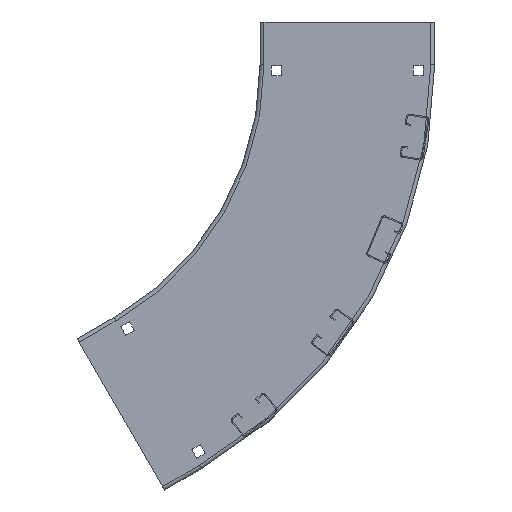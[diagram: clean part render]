
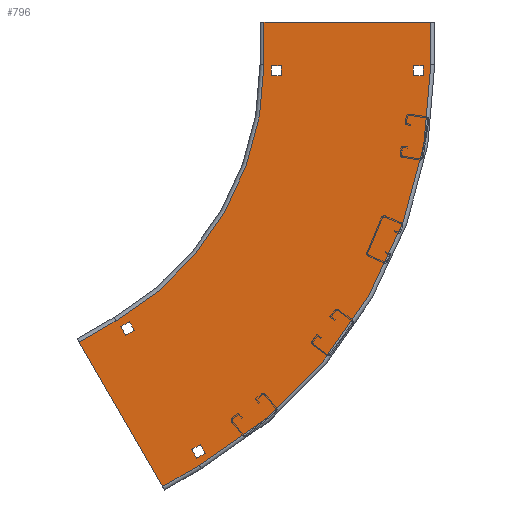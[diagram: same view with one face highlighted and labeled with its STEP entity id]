
A CAD part, left-side view. The second image highlights one B-rep face of the part: STEP entity #796.
In plain terms, the highlighted planar face has unit normal (-1, 0, 0).
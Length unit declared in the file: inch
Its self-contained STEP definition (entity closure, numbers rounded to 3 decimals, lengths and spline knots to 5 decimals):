
#1=DIRECTION('',(0.,-0.5,-0.866));
#2=VECTOR('',#1,6.858);
#3=CARTESIAN_POINT('',(0.,7.99446,17.3468));
#4=LINE('',#3,#2);
#5=DIRECTION('',(0.,1.,0.));
#6=VECTOR('',#5,6.858);
#7=CARTESIAN_POINT('',(0.,12.162,-1.75));
#8=LINE('',#7,#6);
#9=DIRECTION('',(0.,0.,-1.));
#10=VECTOR('',#9,0.41);
#11=CARTESIAN_POINT('',(0.,18.7135,0.455));
#12=LINE('',#11,#10);
#13=DIRECTION('',(0.,-1.,0.));
#14=VECTOR('',#13,0.41);
#15=CARTESIAN_POINT('',(0.,18.7135,0.045));
#16=LINE('',#15,#14);
#17=DIRECTION('',(0.,0.,1.));
#18=VECTOR('',#17,0.41);
#19=CARTESIAN_POINT('',(0.,18.3035,0.045));
#20=LINE('',#19,#18);
#21=DIRECTION('',(0.,1.,0.));
#22=VECTOR('',#21,0.41);
#23=CARTESIAN_POINT('',(0.,18.3035,0.455));
#24=LINE('',#23,#22);
#25=DIRECTION('',(0.,1.,0.));
#26=VECTOR('',#25,0.41);
#27=CARTESIAN_POINT('',(0.,12.4685,0.455));
#28=LINE('',#27,#26);
#29=DIRECTION('',(0.,0.,-1.));
#30=VECTOR('',#29,0.41);
#31=CARTESIAN_POINT('',(0.,12.8785,0.455));
#32=LINE('',#31,#30);
#33=DIRECTION('',(0.,-1.,0.));
#34=VECTOR('',#33,0.41);
#35=CARTESIAN_POINT('',(0.,12.8785,0.045));
#36=LINE('',#35,#34);
#37=DIRECTION('',(0.,0.,1.));
#38=VECTOR('',#37,0.41);
#39=CARTESIAN_POINT('',(0.,12.4685,0.045));
#40=LINE('',#39,#38);
#41=DIRECTION('',(0.,-0.5,-0.866));
#42=VECTOR('',#41,0.41);
#43=CARTESIAN_POINT('',(0.,6.8321,10.92354));
#44=LINE('',#43,#42);
#45=DIRECTION('',(0.,-0.866,0.5));
#46=VECTOR('',#45,0.41);
#47=CARTESIAN_POINT('',(0.,6.6271,10.56847));
#48=LINE('',#47,#46);
#49=DIRECTION('',(0.,0.5,0.866));
#50=VECTOR('',#49,0.41);
#51=CARTESIAN_POINT('',(0.,6.27203,10.77347));
#52=LINE('',#51,#50);
#53=DIRECTION('',(0.,0.866,-0.5));
#54=VECTOR('',#53,0.41);
#55=CARTESIAN_POINT('',(0.,6.47703,11.12854));
#56=LINE('',#55,#54);
#57=DIRECTION('',(0.,0.5,0.866));
#58=VECTOR('',#57,0.41);
#59=CARTESIAN_POINT('',(0.,9.1899,15.82738));
#60=LINE('',#59,#58);
#61=DIRECTION('',(0.,0.866,-0.5));
#62=VECTOR('',#61,0.41);
#63=CARTESIAN_POINT('',(0.,9.3949,16.18245));
#64=LINE('',#63,#62);
#65=DIRECTION('',(0.,-0.5,-0.866));
#66=VECTOR('',#65,0.41);
#67=CARTESIAN_POINT('',(0.,9.74997,15.97745));
#68=LINE('',#67,#66);
#69=DIRECTION('',(0.,-0.866,0.5));
#70=VECTOR('',#69,0.41);
#71=CARTESIAN_POINT('',(0.,9.54497,15.62238));
#72=LINE('',#71,#70);
#73=DIRECTION('',(0.,0.,1.));
#74=VECTOR('',#73,1.75);
#75=CARTESIAN_POINT('',(0.,19.02,-1.75));
#76=LINE('',#75,#74);
#114=DIRECTION('',(0.,0.,-1.));
#115=VECTOR('',#114,1.75);
#116=CARTESIAN_POINT('',(0.,12.162,0.));
#117=LINE('',#116,#115);
#123=CARTESIAN_POINT('',(0.,0.,0.));
#124=DIRECTION('',(-1.,0.,0.));
#125=DIRECTION('',(0.,0.5,0.866));
#126=AXIS2_PLACEMENT_3D('',#123,#124,#125);
#128=DIRECTION('',(0.,0.866,-0.5));
#129=VECTOR('',#128,1.75);
#130=CARTESIAN_POINT('',(0.,4.56546,11.4076));
#131=LINE('',#130,#129);
#169=DIRECTION('',(0.,-0.866,0.5));
#170=VECTOR('',#169,1.75);
#171=CARTESIAN_POINT('',(0.,9.51,16.4718));
#172=LINE('',#171,#170);
#178=CARTESIAN_POINT('',(0.,0.,0.));
#179=DIRECTION('',(1.,0.,0.));
#180=DIRECTION('',(0.,1.,0.));
#181=AXIS2_PLACEMENT_3D('',#178,#179,#180);
#573=CARTESIAN_POINT('',(0.,4.56546,11.4076));
#575=VERTEX_POINT('',#573);
#579=CARTESIAN_POINT('',(0.,6.081,10.5326));
#581=VERTEX_POINT('',#579);
#585=CARTESIAN_POINT('',(0.,12.162,0.));
#587=VERTEX_POINT('',#585);
#591=CARTESIAN_POINT('',(0.,12.162,-1.75));
#593=VERTEX_POINT('',#591);
#621=CARTESIAN_POINT('',(0.,19.02,-1.75));
#622=VERTEX_POINT('',#621);
#623=CARTESIAN_POINT('',(0.,7.99446,17.3468));
#624=VERTEX_POINT('',#623);
#629=CARTESIAN_POINT('',(0.,19.02,0.));
#631=VERTEX_POINT('',#629);
#635=CARTESIAN_POINT('',(0.,9.51,16.4718));
#637=VERTEX_POINT('',#635);
#669=CARTESIAN_POINT('',(0.,18.7135,0.455));
#670=CARTESIAN_POINT('',(0.,18.7135,0.045));
#671=VERTEX_POINT('',#669);
#672=VERTEX_POINT('',#670);
#673=CARTESIAN_POINT('',(0.,18.3035,0.045));
#674=VERTEX_POINT('',#673);
#675=CARTESIAN_POINT('',(0.,18.3035,0.455));
#676=VERTEX_POINT('',#675);
#677=CARTESIAN_POINT('',(0.,12.4685,0.455));
#678=CARTESIAN_POINT('',(0.,12.8785,0.455));
#679=VERTEX_POINT('',#677);
#680=VERTEX_POINT('',#678);
#681=CARTESIAN_POINT('',(0.,12.8785,0.045));
#682=VERTEX_POINT('',#681);
#683=CARTESIAN_POINT('',(0.,12.4685,0.045));
#684=VERTEX_POINT('',#683);
#701=CARTESIAN_POINT('',(0.,6.8321,10.92354));
#702=CARTESIAN_POINT('',(0.,6.6271,10.56847));
#703=VERTEX_POINT('',#701);
#704=VERTEX_POINT('',#702);
#705=CARTESIAN_POINT('',(0.,6.27203,10.77347));
#706=VERTEX_POINT('',#705);
#707=CARTESIAN_POINT('',(0.,6.47703,11.12854));
#708=VERTEX_POINT('',#707);
#709=CARTESIAN_POINT('',(0.,9.1899,15.82738));
#710=CARTESIAN_POINT('',(0.,9.3949,16.18245));
#711=VERTEX_POINT('',#709);
#712=VERTEX_POINT('',#710);
#713=CARTESIAN_POINT('',(0.,9.74997,15.97745));
#714=VERTEX_POINT('',#713);
#715=CARTESIAN_POINT('',(0.,9.54497,15.62238));
#716=VERTEX_POINT('',#715);
#733=CARTESIAN_POINT('',(0.,0.,0.));
#734=DIRECTION('',(1.,0.,0.));
#735=DIRECTION('',(0.,0.,-1.));
#736=AXIS2_PLACEMENT_3D('',#733,#734,#735);
#737=PLANE('',#736);
#739=ORIENTED_EDGE('',*,*,#738,.T.);
#741=ORIENTED_EDGE('',*,*,#740,.T.);
#743=ORIENTED_EDGE('',*,*,#742,.T.);
#745=ORIENTED_EDGE('',*,*,#744,.T.);
#747=ORIENTED_EDGE('',*,*,#746,.T.);
#749=ORIENTED_EDGE('',*,*,#748,.T.);
#751=ORIENTED_EDGE('',*,*,#750,.T.);
#753=ORIENTED_EDGE('',*,*,#752,.T.);
#754=EDGE_LOOP('',(#739,#741,#743,#745,#747,#749,#751,#753));
#755=FACE_OUTER_BOUND('',#754,.F.);
#757=ORIENTED_EDGE('',*,*,#756,.T.);
#759=ORIENTED_EDGE('',*,*,#758,.T.);
#761=ORIENTED_EDGE('',*,*,#760,.T.);
#763=ORIENTED_EDGE('',*,*,#762,.T.);
#764=EDGE_LOOP('',(#757,#759,#761,#763));
#765=FACE_BOUND('',#764,.F.);
#767=ORIENTED_EDGE('',*,*,#766,.T.);
#769=ORIENTED_EDGE('',*,*,#768,.T.);
#771=ORIENTED_EDGE('',*,*,#770,.T.);
#773=ORIENTED_EDGE('',*,*,#772,.T.);
#774=EDGE_LOOP('',(#767,#769,#771,#773));
#775=FACE_BOUND('',#774,.F.);
#777=ORIENTED_EDGE('',*,*,#776,.T.);
#779=ORIENTED_EDGE('',*,*,#778,.T.);
#781=ORIENTED_EDGE('',*,*,#780,.T.);
#783=ORIENTED_EDGE('',*,*,#782,.T.);
#784=EDGE_LOOP('',(#777,#779,#781,#783));
#785=FACE_BOUND('',#784,.F.);
#787=ORIENTED_EDGE('',*,*,#786,.T.);
#789=ORIENTED_EDGE('',*,*,#788,.T.);
#791=ORIENTED_EDGE('',*,*,#790,.T.);
#793=ORIENTED_EDGE('',*,*,#792,.T.);
#794=EDGE_LOOP('',(#787,#789,#791,#793));
#795=FACE_BOUND('',#794,.F.);
#796=ADVANCED_FACE('',(#755,#765,#775,#785,#795),#737,.F.);
#127=CIRCLE('',#126,12.162);
#182=CIRCLE('',#181,19.02);
#738=EDGE_CURVE('',#622,#631,#76,.T.);
#740=EDGE_CURVE('',#631,#637,#182,.T.);
#742=EDGE_CURVE('',#637,#624,#172,.T.);
#744=EDGE_CURVE('',#624,#575,#4,.T.);
#746=EDGE_CURVE('',#575,#581,#131,.T.);
#748=EDGE_CURVE('',#581,#587,#127,.T.);
#750=EDGE_CURVE('',#587,#593,#117,.T.);
#752=EDGE_CURVE('',#593,#622,#8,.T.);
#756=EDGE_CURVE('',#671,#672,#12,.T.);
#758=EDGE_CURVE('',#672,#674,#16,.T.);
#760=EDGE_CURVE('',#674,#676,#20,.T.);
#762=EDGE_CURVE('',#676,#671,#24,.T.);
#766=EDGE_CURVE('',#679,#680,#28,.T.);
#768=EDGE_CURVE('',#680,#682,#32,.T.);
#770=EDGE_CURVE('',#682,#684,#36,.T.);
#772=EDGE_CURVE('',#684,#679,#40,.T.);
#776=EDGE_CURVE('',#703,#704,#44,.T.);
#778=EDGE_CURVE('',#704,#706,#48,.T.);
#780=EDGE_CURVE('',#706,#708,#52,.T.);
#782=EDGE_CURVE('',#708,#703,#56,.T.);
#786=EDGE_CURVE('',#711,#712,#60,.T.);
#788=EDGE_CURVE('',#712,#714,#64,.T.);
#790=EDGE_CURVE('',#714,#716,#68,.T.);
#792=EDGE_CURVE('',#716,#711,#72,.T.);
